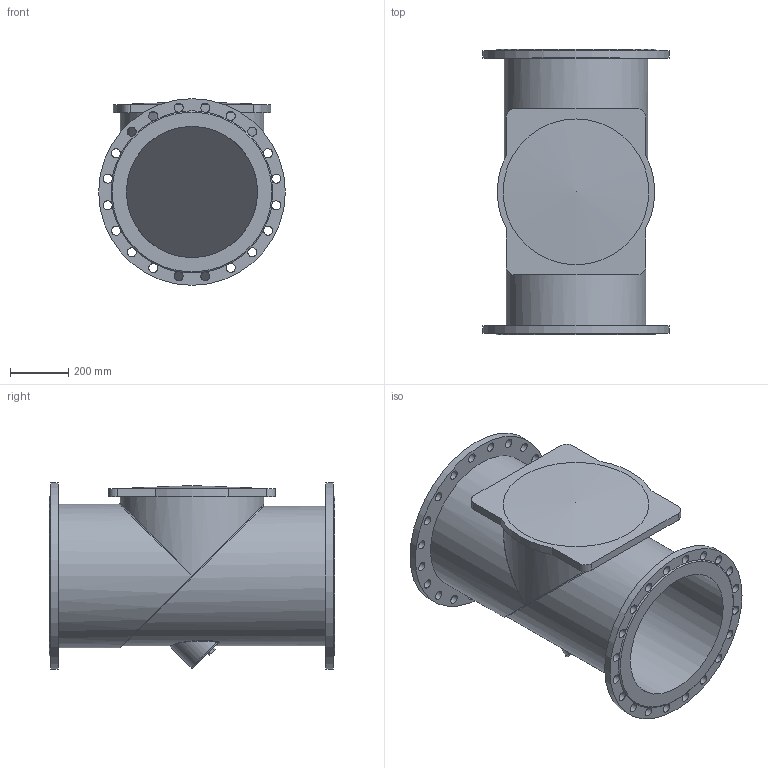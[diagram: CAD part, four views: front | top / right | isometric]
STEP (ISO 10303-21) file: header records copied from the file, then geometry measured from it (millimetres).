
FILE_DESCRIPTION(('STEP AP203'), '1');
FILE_NAME('Êëàïàí îäíîñòâîð÷àòûé îáðàòíûé ôëàíöåâûé 015F.Z DN450 PN16', '', ('UNSPECIFIED'), ('UNSPECIFIED'), 'ASCON STEP Converter 1.6', 'ASCON Math Kernel', '');
FILE_SCHEMA(('CONFIG_CONTROL_DESIGN'));
Length unit declared in the file: millimetre
Bounding box: 640 x 978 x 640 mm (x, y, z)
Volume: 52103438.4 mm3; surface area: 4442504.3 mm2
Topology: 1 solids, 2 shells, 94 faces, 351 edges, 230 vertices
Faces by surface type: cylinder 57, plane 27, bspline 6, cone 2, torus 1, sphere 1
Full cylindrical faces by diameter (mm): 31 x40, 450 x2, 465 x1, 478 x1, 493 x2, 640 x2
Entity records: 8298 total; most frequent: CARTESIAN_POINT 4595, DIRECTION 602, ORIENTED_EDGE 592, EDGE_CURVE 296, AXIS2_PLACEMENT_3D 280, VERTEX_POINT 229, EDGE_LOOP 197, CIRCLE 191
